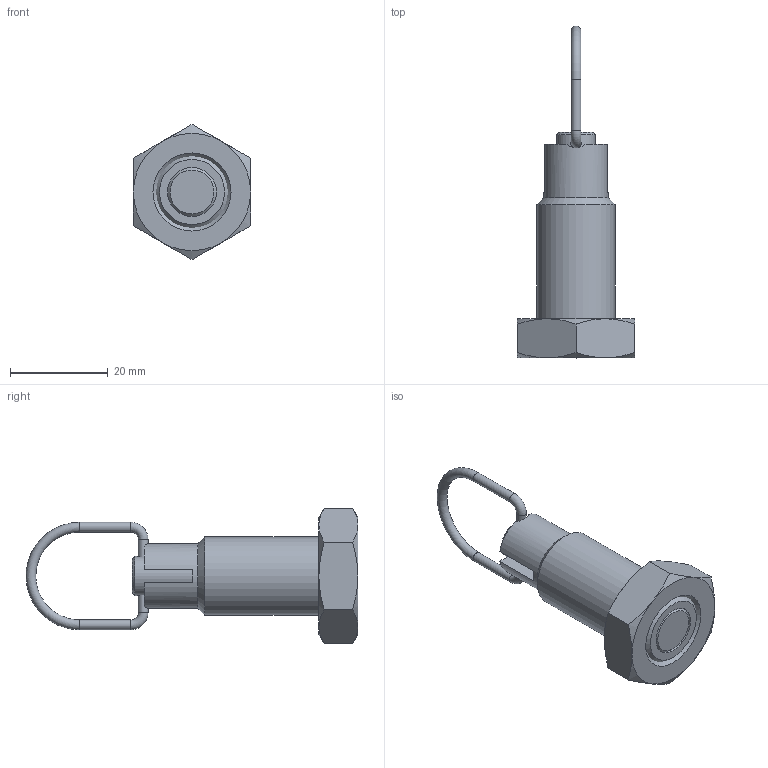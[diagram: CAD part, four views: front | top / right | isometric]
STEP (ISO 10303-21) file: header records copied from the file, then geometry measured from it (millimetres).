
FILE_DESCRIPTION( ( 'STEP AP203' ), '1' );
FILE_NAME( 'C:/Temp/Ganter_Step_05_03_2020/data/3_1/gn_413/gn413_st/gn413_st_ck/Steel-Indexing plunger GN 413-10-M16x1,5-CK-ST (activated- 0).stp', '2020-03-12T09:10:57', ( 'License CC BY-ND 4.0' ), ( 'CADENAS' ), ' ', 'PARTsolutions', ' ' );
FILE_SCHEMA( ( 'CONFIG_CONTROL_DESIGN' ) );
Length unit declared in the file: millimetre
Products named in the file (4): Steel-Indexing plunger GN 413-10-M16x1,5-CK-ST (activated- 0); _Steel-Indexing plunger  GN 413-10-M16-CK-ST (activated)_f; _Steel-Indexing plunger GN 413-10-M16-CK-ST (activated)_b; _Steel-Indexing plunger GN 413-10-M16-CK-ST (activated)_km
Assembly tree (3 placements, depth 2):
  Steel-Indexing plunger GN 413-10-M16x1,5-CK-ST (activated- 0)
    _Steel-Indexing plunger  GN 413-10-M16-CK-ST (activated)_f
    _Steel-Indexing plunger GN 413-10-M16-CK-ST (activated)_b
    _Steel-Indexing plunger GN 413-10-M16-CK-ST (activated)_km
Bounding box: 24 x 67.99 x 27.71 mm (x, y, z)
Volume: 10649.1 mm3; surface area: 7025.1 mm2
Topology: 3 solids, 3 shells, 65 faces, 141 edges, 86 vertices
Faces by surface type: plane 26, cone 20, cylinder 16, torus 3
Full cylindrical faces by diameter (mm): 2 x4, 8 x2, 8.3 x1, 10 x2, 11 x2, 13.2 x1, 13.835 x1, 16 x1
Entity records: 1959 total; most frequent: CARTESIAN_POINT 543, DIRECTION 274, ORIENTED_EDGE 222, AXIS2_PLACEMENT_3D 124, EDGE_CURVE 111, EDGE_LOOP 100, FACE_OUTER_BOUND 82, VERTEX_POINT 81
